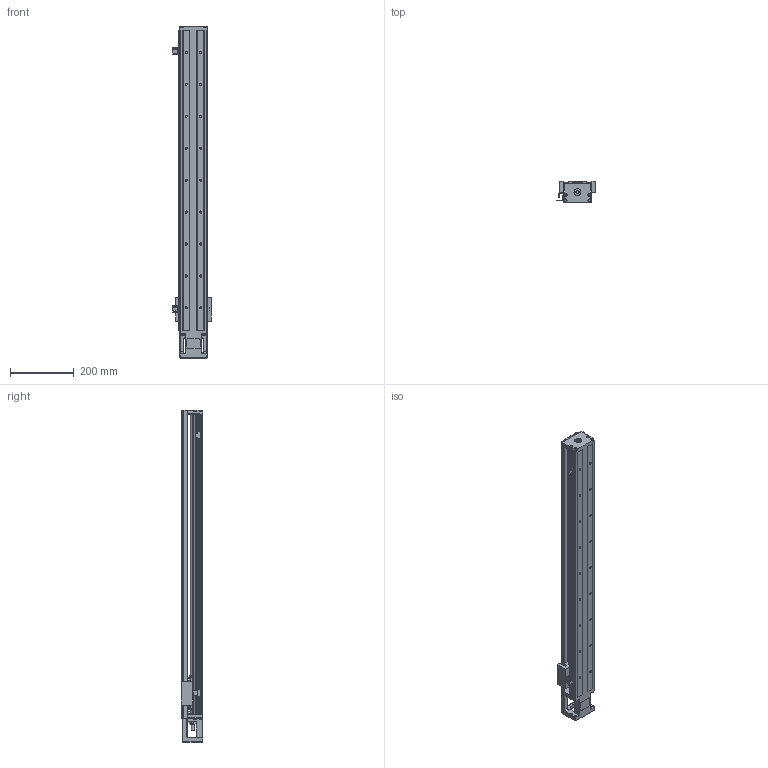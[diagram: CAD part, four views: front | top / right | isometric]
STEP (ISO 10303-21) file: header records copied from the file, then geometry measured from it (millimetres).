
FILE_DESCRIPTION (( 'STEP AP203' ), '1' );
FILE_NAME ('SFKK8620C-940A1-F0CS0.STEP', '2022-04-18T07:49:04', ( '微软用户' ), ( '微软中国' ), 'SwSTEP 2.0', 'SolidWorks 2018', '' );
FILE_SCHEMA (( 'CONFIG_CONTROL_DESIGN' ));
Length unit declared in the file: millimetre
Products named in the file (10): SFKK86-LR 憤癹寢耋_940; SFKK8620C-940A1-F0CS0; hexagon socket countersunk head screws gb_GB_FASTENER_SCREWS_HSCHS M3X8-N; 开关固定座：KK-674S2-F; 极限轨道与开关固定座组合_940; SFKK86-F0_KKR86-ZT-P-940; SFKK86-A1-C; 带盖挡光片：KK-86-S2-D1; hexagon socket countersunk head screws gb_GB_FASTENER_SCREWS_HSCHS M4X10-N; SFKK86-CU_940
Assembly tree (14 placements, depth 3):
  SFKK8620C-940A1-F0CS0
    SFKK86-F0_KKR86-ZT-P-940
    SFKK86-A1-C
    极限轨道与开关固定座组合_940
      SFKK86-LR 憤癹寢耋_940
      开关固定座：KK-674S2-F  x2
    带盖挡光片：KK-86-S2-D1
    hexagon socket countersunk head screws gb_GB_FASTENER_SCREWS_HSCHS M3X8-N  x2
    SFKK86-CU_940
    hexagon socket countersunk head screws gb_GB_FASTENER_SCREWS_HSCHS M4X10-N  x4
Bounding box: 121.25 x 68 x 1040 mm (x, y, z)
Volume: 2336129.9 mm3; surface area: 719485.8 mm2
Topology: 35 solids, 35 shells, 1872 faces, 4797 edges, 2962 vertices
Faces by surface type: plane 841, cylinder 679, cone 252, torus 67, sphere 23, bspline 10
Entity records: 59715 total; most frequent: CARTESIAN_POINT 15742, DIRECTION 9196, ORIENTED_EDGE 8740, EDGE_CURVE 4370, AXIS2_PLACEMENT_3D 3299, VERTEX_POINT 2780, VECTOR 2598, LINE 2598
